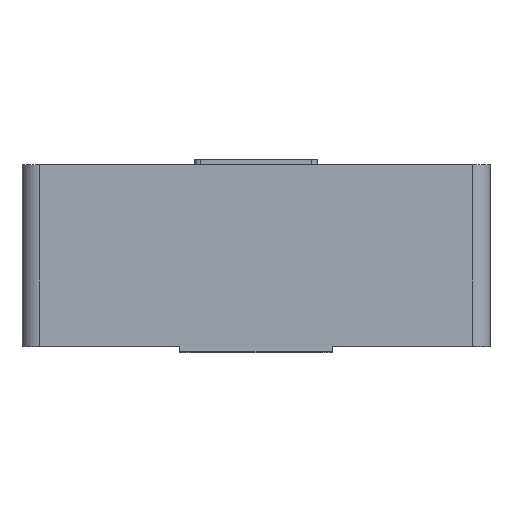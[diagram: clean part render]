
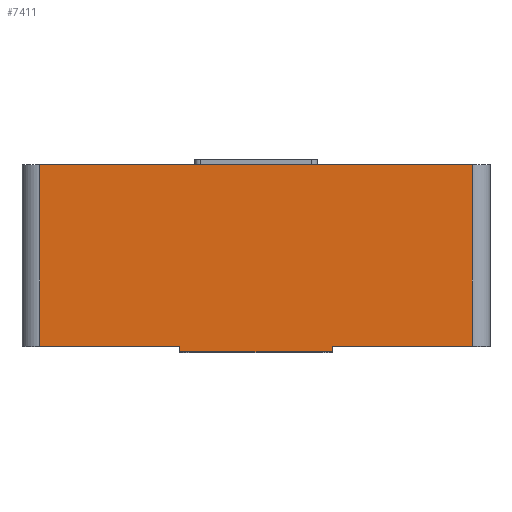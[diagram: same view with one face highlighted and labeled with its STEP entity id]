
A CAD part, top view. The second image highlights one B-rep face of the part: STEP entity #7411.
In plain terms, the highlighted planar face has unit normal (0, 0, 1).
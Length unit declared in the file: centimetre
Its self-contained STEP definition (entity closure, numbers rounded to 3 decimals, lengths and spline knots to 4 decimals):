
#1453=VECTOR('',#8533,1.);
#1544=VECTOR('',#8882,1.);
#1565=VECTOR('',#8920,1.);
#1613=VECTOR('',#9051,1.);
#1614=VECTOR('',#9053,1.);
#1615=VECTOR('',#9054,1.);
#1616=VECTOR('',#9055,1.);
#1964=LINE('',#10271,#1453);
#2055=LINE('',#10633,#1544);
#2076=LINE('',#10683,#1565);
#2124=LINE('',#10819,#1613);
#2125=LINE('',#10821,#1614);
#2126=LINE('',#10822,#1615);
#2127=LINE('',#10824,#1616);
#2508=PLANE('',#7943);
#2693=VERTEX_POINT('',#10269);
#2695=VERTEX_POINT('',#10272);
#2823=VERTEX_POINT('',#10632);
#2824=VERTEX_POINT('',#10634);
#2842=VERTEX_POINT('',#10682);
#2843=VERTEX_POINT('',#10684);
#2884=VERTEX_POINT('',#10818);
#2885=VERTEX_POINT('',#10823);
#3636=EDGE_CURVE('',#2695,#2693,#1964,.T.);
#3806=EDGE_CURVE('',#2823,#2824,#2055,.T.);
#3831=EDGE_CURVE('',#2843,#2842,#2076,.T.);
#3900=EDGE_CURVE('',#2884,#2693,#2124,.T.);
#3901=EDGE_CURVE('',#2884,#2843,#2125,.T.);
#3902=EDGE_CURVE('',#2842,#2824,#2126,.T.);
#3903=EDGE_CURVE('',#2823,#2885,#2125,.T.);
#3904=EDGE_CURVE('',#2695,#2885,#2127,.T.);
#4961=ORIENTED_EDGE('',*,*,#3900,.F.);
#4962=ORIENTED_EDGE('',*,*,#3901,.T.);
#4963=ORIENTED_EDGE('',*,*,#3831,.T.);
#4964=ORIENTED_EDGE('',*,*,#3902,.T.);
#4965=ORIENTED_EDGE('',*,*,#3806,.F.);
#4966=ORIENTED_EDGE('',*,*,#3903,.T.);
#4967=ORIENTED_EDGE('',*,*,#3904,.F.);
#4968=ORIENTED_EDGE('',*,*,#3636,.T.);
#6342=EDGE_LOOP('',(#4961,#4962,#4963,#4964,#4965,#4966,#4967,#4968));
#6908=FACE_BOUND('',#6342,.T.);
#7411=ADVANCED_FACE('',(#6908),#2508,.T.);
#7943=AXIS2_PLACEMENT_3D('',#10820,#9052,$);
#8533=DIRECTION('',(-1.,0.,0.));
#8882=DIRECTION('',(0.,-1.,0.));
#8920=DIRECTION('',(0.,-1.,0.));
#9051=DIRECTION('',(0.,1.,0.));
#9052=DIRECTION('',(0.,0.,1.));
#9053=DIRECTION('',(1.,0.,0.));
#9054=DIRECTION('',(1.,0.,0.));
#9055=DIRECTION('',(0.,-1.,0.));
#10269=CARTESIAN_POINT('',(-7.4,6.2,8.));
#10271=CARTESIAN_POINT('',(-8.,6.2,8.));
#10272=CARTESIAN_POINT('',(7.4,6.2,8.));
#10632=CARTESIAN_POINT('',(2.6,0.,8.));
#10633=CARTESIAN_POINT('',(2.6,0.,8.));
#10634=CARTESIAN_POINT('',(2.6,-0.2,8.));
#10682=CARTESIAN_POINT('',(-2.6,-0.2,8.));
#10683=CARTESIAN_POINT('',(-2.6,0.,8.));
#10684=CARTESIAN_POINT('',(-2.6,0.,8.));
#10818=CARTESIAN_POINT('',(-7.4,0.,8.));
#10819=CARTESIAN_POINT('',(-7.4,0.,8.));
#10820=CARTESIAN_POINT('',(0.,0.,8.));
#10821=CARTESIAN_POINT('',(-8.,0.,8.));
#10822=CARTESIAN_POINT('',(-2.6,-0.2,8.));
#10823=CARTESIAN_POINT('',(7.4,0.,8.));
#10824=CARTESIAN_POINT('',(7.4,0.,8.));
